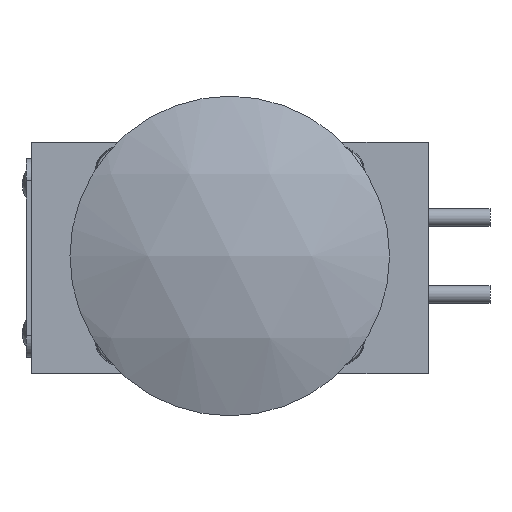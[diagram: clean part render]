
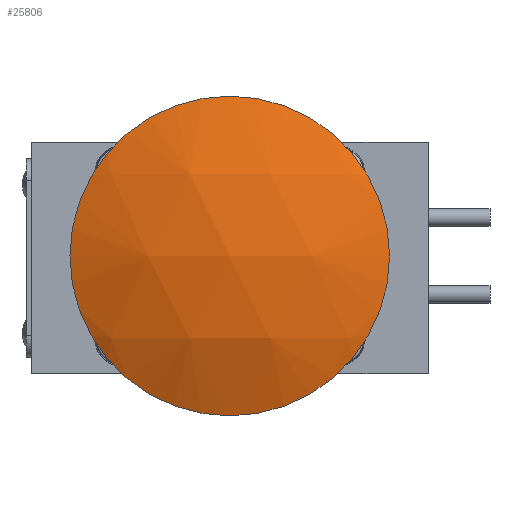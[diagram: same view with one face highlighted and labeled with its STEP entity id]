
A CAD part, left-side view. The second image highlights one B-rep face of the part: STEP entity #25806.
In plain terms, the highlighted spherical face has radius 53.924 mm.
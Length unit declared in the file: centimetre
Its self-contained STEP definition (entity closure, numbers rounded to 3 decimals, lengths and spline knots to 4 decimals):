
#97=SPHERICAL_SURFACE('',#27543,5.3924);
#1953=FACE_OUTER_BOUND('',#3527,.T.);
#3527=EDGE_LOOP('',(#17002));
#5261=CIRCLE('',#27544,2.3019);
#10402=VERTEX_POINT('',#39978);
#12907=EDGE_CURVE('',#10402,#10402,#5261,.T.);
#17002=ORIENTED_EDGE('',*,*,#12907,.F.);
#25806=ADVANCED_FACE('',(#1953),#97,.T.);
#27543=AXIS2_PLACEMENT_3D('',#39977,#31111,#31112);
#27544=AXIS2_PLACEMENT_3D('',#39979,#31113,#31114);
#31111=DIRECTION('center_axis',(0.,0.,-1.));
#31112=DIRECTION('ref_axis',(-1.,0.011,0.));
#31113=DIRECTION('center_axis',(1.,0.,0.));
#31114=DIRECTION('ref_axis',(0.,-1.,0.));
#39977=CARTESIAN_POINT('Origin',(-5.0559,0.,
0.0305));
#39978=CARTESIAN_POINT('',(-9.9323,2.3019,0.0305));
#39979=CARTESIAN_POINT('Origin',(-9.9323,0.,
0.0305));
